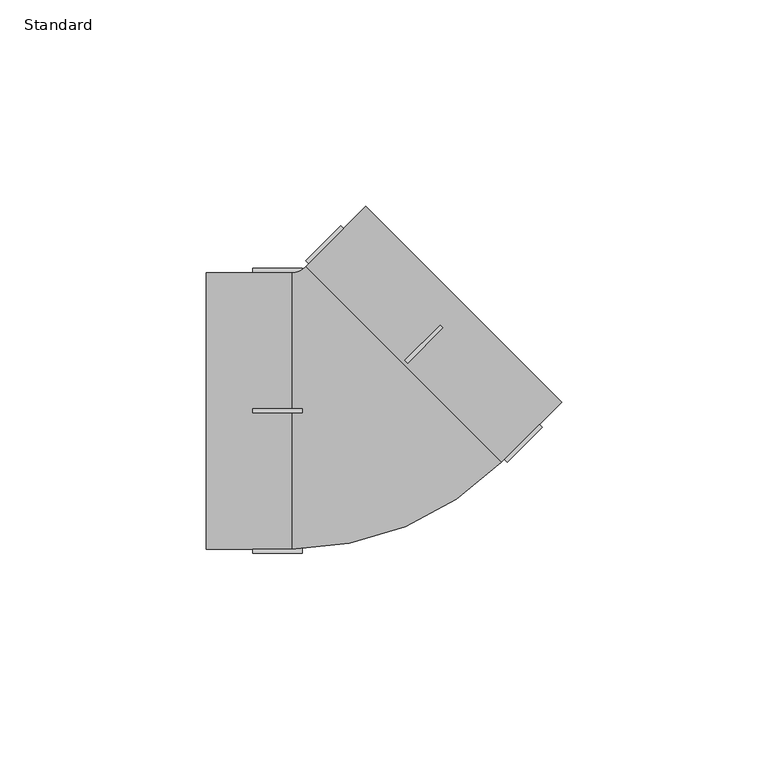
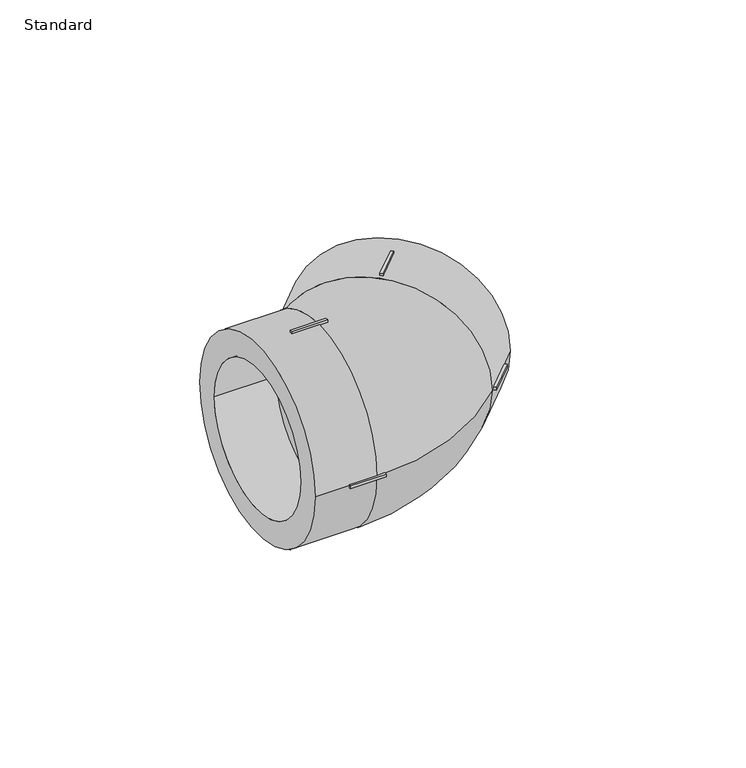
"""IFC4 building model written with IfcOpenShell, lengths in millimetres: pipe fitting geometry, EGB_VASEN_ PPR_Codo 90 WXR200_Codo 45 WXR220  : Standard."""

from ifc_helpers import new_model, si_unit, point, frame, origin, place, context, project, spatial, polyline, circle_curve, ellipse_curve, trimmed, outline, extrude, source, transform, mapped, element, save
from ifc_brep_helpers import plane_surface, cylinder_surface, revolved_surface, advanced_brep


def standard_5c496f1e(model_context):
    return source(origin(), model_context, "Body", "SolidModel", [
        advanced_brep(
        [(-36.5, -33.5, 0.0), (-36.5, 33.5, 0.0), (-36.5, -25.0, 0.0), (-36.5, 25.0, 0.0), (-15.8761543, -33.5, 0.0), (-15.8761543, 33.5, 0.0), (-15.8761543, -25.0, 0.0), (-15.8761543, 25.0, 0.0), (28.9038059, -6.4515331, 0.0), (-6.4515331, 28.9038059, 0.0), (-12.4619408, 34.9142136, 0.0), (34.9142136, -12.4619408, 0.0), (11.2261364, 11.2261364, 33.5), (11.2261364, 11.2261364, -33.5), (49.4974747, 2.1213203, 0.0), (2.1213203, 49.4974747, 0.0), (43.487067, 8.131728, 0.0), (8.131728, 43.487067, 0.0)],
        [
            (0, 1, circle_curve(frame((-36.5, 0.0, 0.0), z_axis=(-1.0, 0.0, 0.0), x_axis=(0.0, 1.0, 0.0)), 33.5)),
            (1, 0, circle_curve(frame((-36.5, 0.0, 0.0), z_axis=(-1.0, 0.0, 0.0), x_axis=(0.0, 1.0, 0.0)), 33.5)),
            (2, 3, circle_curve(frame((-36.5, 0.0, 0.0), z_axis=(1.0, 0.0, 0.0), x_axis=(0.0, 1.0, 0.0)), 25.0)),
            (3, 2, circle_curve(frame((-36.5, 0.0, 0.0), z_axis=(1.0, 0.0, 0.0), x_axis=(0.0, 1.0, 0.0)), 25.0)),
            (0, 4),
            (4, 5, circle_curve(frame((-15.8761543, 0.0, 0.0), z_axis=(-1.0, 0.0, 0.0), x_axis=(0.0, 1.0, 0.0)), 33.5)),
            (5, 1),
            (5, 4, circle_curve(frame((-15.8761543, 0.0, 0.0), z_axis=(-1.0, 0.0, 0.0), x_axis=(0.0, 1.0, 0.0)), 33.5)),
            (2, 6),
            (6, 7, circle_curve(frame((-15.8761543, 0.0, 0.0), z_axis=(1.0, 0.0, 0.0), x_axis=(0.0, 1.0, 0.0)), 25.0)),
            (7, 3),
            (7, 6, circle_curve(frame((-15.8761543, 0.0, 0.0), z_axis=(1.0, 0.0, 0.0), x_axis=(0.0, 1.0, 0.0)), 25.0)),
            (8, 9, circle_curve(frame((11.2261364, 11.2261364, 0.0), z_axis=(0.707106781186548, 0.7071067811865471, 0.0), x_axis=(-0.7071067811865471, 0.707106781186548, 0.0)), 25.0)),
            (9, 8, circle_curve(frame((11.2261364, 11.2261364, 0.0), z_axis=(0.707106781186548, 0.7071067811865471, 0.0), x_axis=(-0.7071067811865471, 0.707106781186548, 0.0)), 25.0)),
            (10, 5, circle_curve(frame((-15.8761543, 38.3284271, 0.0), z_axis=(0.0, 0.0, -1.0), x_axis=(0.0, -1.0, 0.0)), 4.8284271)),
            (4, 11, circle_curve(frame((-15.8761543, 38.3284271, 0.0), z_axis=(0.0, 0.0, 1.0), x_axis=(0.0, -1.0, 0.0)), 71.8284271)),
            (11, 12, circle_curve(frame((11.2261364, 11.2261364, 0.0), z_axis=(-0.7071067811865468, -0.7071067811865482, 0.0), x_axis=(-0.7071067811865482, 0.7071067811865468, 0.0)), 33.5)),
            (12, 10, circle_curve(frame((11.2261364, 11.2261364, 0.0), z_axis=(-0.7071067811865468, -0.7071067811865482, 0.0), x_axis=(-0.7071067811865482, 0.7071067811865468, 0.0)), 33.5)),
            (10, 13, circle_curve(frame((11.2261364, 11.2261364, 0.0), z_axis=(-0.7071067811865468, -0.7071067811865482, 0.0), x_axis=(-0.7071067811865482, 0.7071067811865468, 0.0)), 33.5)),
            (13, 11, circle_curve(frame((11.2261364, 11.2261364, 0.0), z_axis=(-0.707106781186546, -0.707106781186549, 0.0), x_axis=(-0.707106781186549, 0.707106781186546, 0.0)), 33.5)),
            (14, 15, circle_curve(frame((25.8093975, 25.8093975, 0.0), z_axis=(0.707106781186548, 0.7071067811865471, 0.0), x_axis=(-0.7071067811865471, 0.707106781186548, 0.0)), 33.5)),
            (15, 14, circle_curve(frame((25.8093975, 25.8093975, 0.0), z_axis=(0.707106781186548, 0.7071067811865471, 0.0), x_axis=(-0.7071067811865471, 0.707106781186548, 0.0)), 33.5)),
            (16, 17, circle_curve(frame((25.8093975, 25.8093975, 0.0), z_axis=(-0.707106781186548, -0.7071067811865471, 0.0), x_axis=(-0.7071067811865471, 0.707106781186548, 0.0)), 25.0)),
            (17, 16, circle_curve(frame((25.8093975, 25.8093975, 0.0), z_axis=(-0.707106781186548, -0.7071067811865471, 0.0), x_axis=(-0.7071067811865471, 0.707106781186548, 0.0)), 25.0)),
            (15, 10),
            (11, 14),
            (17, 9),
            (8, 16),
        ],
        [
            plane_surface(frame((-36.5, 0.0, 0.0), z_axis=(-1.0, 0.0, 0.0), x_axis=(0.0, 0.0, 1.0))),
            cylinder_surface(frame((-36.5, 0.0, 0.0), z_axis=(-1.0, 0.0, 0.0), x_axis=(0.0, 1.0, 0.0)), 33.5),
            revolved_surface(polyline([(-15.8761543, 25.0, 0.0), (-36.5, 25.0, 0.0)]), (-36.5, 0.0, 0.0), (1.0, 0.0, 0.0)),
            plane_surface(frame((-15.8761543, 0.0, 0.0), z_axis=(-1.0, 0.0, 0.0), x_axis=(0.0, 0.0, 1.0))),
            plane_surface(frame((11.2261364, 11.2261364, 0.0), z_axis=(0.7071067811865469, 0.7071067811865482, 0.0), x_axis=(0.0, 0.0, 1.0))),
            revolved_surface(trimmed(ellipse_curve(frame((-15.8761543, 0.0, 0.0), z_axis=(-1.0, 0.0, 0.0), x_axis=(0.0, 1.0, 0.0)), 33.5, 33.5), [point((-15.8761543, -33.5, 0.0))], [point((-15.8761543, 33.5, 0.0))], True, "CARTESIAN"), (-15.8761543, 38.3284271, 0.0), (0.0, 0.0, 1.0)),
            revolved_surface(trimmed(ellipse_curve(frame((-15.8761543, 0.0, 0.0), z_axis=(-1.0, 0.0, 0.0), x_axis=(0.0, 1.0, 0.0)), 33.5, 33.5), [point((-15.8761543, 33.5, 0.0))], [point((-15.8761543, -33.5, 0.0))], True, "CARTESIAN"), (-15.8761543, 38.3284271, 0.0), (0.0, 0.0, 1.0)),
            plane_surface(frame((25.8093975, 25.8093975, 0.0), z_axis=(0.707106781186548, 0.7071067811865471, 0.0), x_axis=(0.0, 0.0, 1.0))),
            cylinder_surface(frame((11.2261364, 11.2261364, 0.0), z_axis=(-0.707106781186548, -0.7071067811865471, 0.0), x_axis=(-0.7071067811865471, 0.707106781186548, 0.0)), 33.5),
            revolved_surface(polyline([(8.131727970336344, 43.487067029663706, 0.0), (-6.451533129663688, 28.903805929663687, 0.0)]), (11.2261364, 11.2261364, 0.0), (0.707106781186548, 0.7071067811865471, 0.0)),
        ],
        [
            (0, [[1, 2], [3, 4]]),
            (1, [[-1, 5, 6, 7]]),
            (1, [[-2, -7, 8, -5]]),
            (2, [[-3, 9, 10, 11]]),
            (2, [[-4, -11, 12, -9]]),
            (3, [[-10, -12]]),
            (4, [[13, 14]]),
            (5, [[15, -6, 16, 17, 18]]),
            (6, [[-15, 19, 20, -16, -8]]),
            (7, [[21, 22], [23, 24]]),
            (8, [[-22, 25, -18, -17, 26]]),
            (8, [[-21, -26, -20, -19, -25]]),
            (9, [[-24, 27, -13, 28]]),
            (9, [[-23, -28, -14, -27]]),
        ],
    ),
        extrude(outline(polyline([(12.2867966, 11.5796898), (11.5796898, 12.2867966), (20.0649712, 20.7720779), (20.7720779, 20.0649712), (12.2867966, 11.5796898)])), frame((0.0, 0.0, 32.5), z_axis=(0.0, 0.0, 1.0), x_axis=(1.0, 0.0, 0.0)), (0.0, 0.0, 1.0), 2.0),
        extrude(outline(polyline([(-11.0477272, 34.9142136), (-12.4619408, 36.3284271), (-3.9766594, 44.8137085), (-2.5624458, 43.3994949), (-11.0477272, 34.9142136)])), frame((0.0, 0.0, -0.5), z_axis=(0.0, 0.0, 1.0), x_axis=(1.0, 0.0, 0.0)), (0.0, 0.0, 1.0), 1.0),
        extrude(outline(polyline([(36.3284271, -12.4619408), (34.9142136, -11.0477272), (43.3994949, -2.5624458), (44.8137085, -3.9766594), (36.3284271, -12.4619408)])), frame((0.0, 0.0, -0.5), z_axis=(0.0, 0.0, 1.0), x_axis=(1.0, 0.0, 0.0)), (0.0, 0.0, 1.0), 1.0),
        extrude(outline(polyline([(12.2867966, 11.5796898), (11.5796898, 12.2867966), (20.0649712, 20.7720779), (20.7720779, 20.0649712), (12.2867966, 11.5796898)])), frame((0.0, 0.0, -34.5), z_axis=(0.0, 0.0, 1.0), x_axis=(1.0, 0.0, 0.0)), (0.0, 0.0, 1.0), 2.0),
        extrude(outline(polyline([(-13.2761543, 0.5), (-13.2761543, -0.5), (-25.2761543, -0.5), (-25.2761543, 0.5), (-13.2761543, 0.5)])), frame((0.0, 0.0, 32.5), z_axis=(0.0, 0.0, 1.0), x_axis=(1.0, 0.0, 0.0)), (0.0, 0.0, 1.0), 2.0),
        extrude(outline(polyline([(-13.2761543, 0.5), (-13.2761543, -0.5), (-25.2761543, -0.5), (-25.2761543, 0.5), (-13.2761543, 0.5)])), frame((0.0, 0.0, -34.5), z_axis=(0.0, 0.0, 1.0), x_axis=(1.0, 0.0, 0.0)), (0.0, 0.0, 1.0), 2.0),
        extrude(outline(polyline([(-13.2761543, 34.5), (-13.2761543, 32.5), (-25.2761543, 32.5), (-25.2761543, 34.5), (-13.2761543, 34.5)])), frame((0.0, 0.0, -0.5), z_axis=(0.0, 0.0, 1.0), x_axis=(1.0, 0.0, 0.0)), (0.0, 0.0, 1.0), 1.0),
        extrude(outline(polyline([(-13.2761543, -32.5), (-13.2761543, -34.5), (-25.2761543, -34.5), (-25.2761543, -32.5), (-13.2761543, -32.5)])), frame((0.0, 0.0, -0.5), z_axis=(0.0, 0.0, 1.0), x_axis=(1.0, 0.0, 0.0)), (0.0, 0.0, 1.0), 1.0),
    ])


if __name__ == "__main__":
    model = new_model("IFC4")
    model_context = context("Model", 3, world=origin())
    ifc_project = project(units=[si_unit("LENGTHUNIT", "METRE", prefix="MILLI")], contexts=[model_context])
    site = spatial("IfcSite", under=ifc_project)
    building = spatial("IfcBuilding", under=site)
    placement = place(None, origin())
    standard_shape = standard_5c496f1e(model_context)
    element("IfcPipeFitting", 1, ObjectType="EGB_VASEN_ PPR_Codo 90 WXR200_Codo 45 WXR220  : Standard", at=placement, inside=building, context=model_context, shape_type="MappedRepresentation", body=[
        mapped(standard_shape, transform((0.0, 0.0, 0.0), x_axis=(1.0, 0.0, 0.0), y_axis=(0.0, 1.0, 0.0), z_axis=(0.0, 0.0, 1.0))),
    ])
    save(model, "model.ifc")
